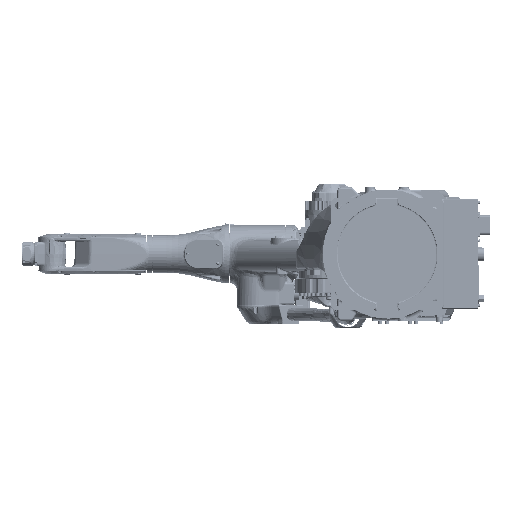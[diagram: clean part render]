
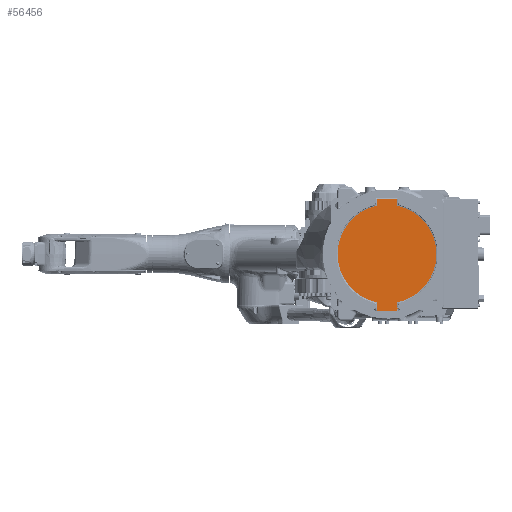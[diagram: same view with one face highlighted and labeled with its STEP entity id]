
A CAD part, front view. The second image highlights one B-rep face of the part: STEP entity #56456.
In plain terms, the highlighted planar face has unit normal (0, -1, 0).
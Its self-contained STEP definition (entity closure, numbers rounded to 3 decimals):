
#26765=CIRCLE('',#175379,13.);
#26766=CIRCLE('',#175381,132.);
#26767=CIRCLE('',#175382,132.);
#26768=CIRCLE('',#175383,13.);
#35820=PLANE('',#175384);
#38985=LINE('',#239433,#47715);
#39012=LINE('',#241609,#47742);
#39013=LINE('',#241611,#47743);
#39014=LINE('',#241613,#47744);
#39015=LINE('',#241617,#47745);
#39016=LINE('',#241618,#47746);
#39017=LINE('',#241620,#47747);
#39018=LINE('',#241621,#47748);
#39019=LINE('',#241623,#47749);
#39020=LINE('',#241627,#47750);
#47715=VECTOR('',#192901,1.);
#47742=VECTOR('',#193090,1.);
#47743=VECTOR('',#193091,1.);
#47744=VECTOR('',#193092,1.);
#47745=VECTOR('',#193095,1.);
#47746=VECTOR('',#193096,1.);
#47747=VECTOR('',#193097,1.);
#47748=VECTOR('',#193098,1.);
#47749=VECTOR('',#193099,1.);
#47750=VECTOR('',#193102,1.);
#56456=ADVANCED_FACE('',(#67170),#35820,.T.);
#67170=FACE_OUTER_BOUND('',#76061,.T.);
#76061=EDGE_LOOP('',(#91552,#91553,#91554,#91555,#91556,#91557,#91558,#91559,
#91560,#91561,#91562,#91563,#91564,#91565));
#91552=ORIENTED_EDGE('',*,*,#151897,.T.);
#91553=ORIENTED_EDGE('',*,*,#151898,.F.);
#91554=ORIENTED_EDGE('',*,*,#151899,.T.);
#91555=ORIENTED_EDGE('',*,*,#151900,.F.);
#91556=ORIENTED_EDGE('',*,*,#151901,.T.);
#91557=ORIENTED_EDGE('',*,*,#151902,.F.);
#91558=ORIENTED_EDGE('',*,*,#151896,.F.);
#91559=ORIENTED_EDGE('',*,*,#151903,.T.);
#91560=ORIENTED_EDGE('',*,*,#151904,.T.);
#91561=ORIENTED_EDGE('',*,*,#151794,.F.);
#91562=ORIENTED_EDGE('',*,*,#151905,.T.);
#91563=ORIENTED_EDGE('',*,*,#151906,.T.);
#91564=ORIENTED_EDGE('',*,*,#151907,.F.);
#91565=ORIENTED_EDGE('',*,*,#151908,.F.);
#137055=VERTEX_POINT('',#239432);
#137056=VERTEX_POINT('',#239434);
#137118=VERTEX_POINT('',#241544);
#137119=VERTEX_POINT('',#241603);
#137120=VERTEX_POINT('',#241607);
#137121=VERTEX_POINT('',#241608);
#137122=VERTEX_POINT('',#241610);
#137123=VERTEX_POINT('',#241612);
#137124=VERTEX_POINT('',#241614);
#137125=VERTEX_POINT('',#241616);
#137126=VERTEX_POINT('',#241619);
#137127=VERTEX_POINT('',#241622);
#137128=VERTEX_POINT('',#241624);
#137129=VERTEX_POINT('',#241626);
#151794=EDGE_CURVE('',#137055,#137056,#38985,.T.);
#151896=EDGE_CURVE('',#137118,#137119,#26765,.T.);
#151897=EDGE_CURVE('',#137120,#137121,#26766,.T.);
#151898=EDGE_CURVE('',#137122,#137121,#39012,.T.);
#151899=EDGE_CURVE('',#137122,#137123,#39013,.T.);
#151900=EDGE_CURVE('',#137124,#137123,#39014,.T.);
#151901=EDGE_CURVE('',#137124,#137125,#26767,.T.);
#151902=EDGE_CURVE('',#137119,#137125,#39015,.T.);
#151903=EDGE_CURVE('',#137118,#137126,#39016,.T.);
#151904=EDGE_CURVE('',#137126,#137056,#39017,.T.);
#151905=EDGE_CURVE('',#137055,#137127,#39018,.T.);
#151906=EDGE_CURVE('',#137127,#137128,#39019,.T.);
#151907=EDGE_CURVE('',#137129,#137128,#26768,.T.);
#151908=EDGE_CURVE('',#137120,#137129,#39020,.T.);
#175379=AXIS2_PLACEMENT_3D('',#241604,#193084,#193085);
#175381=AXIS2_PLACEMENT_3D('',#241606,#193088,#193089);
#175382=AXIS2_PLACEMENT_3D('',#241615,#193093,#193094);
#175383=AXIS2_PLACEMENT_3D('',#241625,#193100,#193101);
#175384=AXIS2_PLACEMENT_3D('',#241628,#193103,#193104);
#192901=DIRECTION('',(-1.,0.,0.));
#193084=DIRECTION('',(0.,-1.,0.));
#193085=DIRECTION('',(0.843,0.,-0.538));
#193088=DIRECTION('',(0.,-1.,0.));
#193089=DIRECTION('',(0.205,0.,-0.979));
#193090=DIRECTION('',(0.,0.,-1.));
#193091=DIRECTION('',(-1.,0.,0.));
#193092=DIRECTION('',(0.,0.,1.));
#193093=DIRECTION('',(0.,-1.,0.));
#193094=DIRECTION('',(-0.205,0.,0.979));
#193095=DIRECTION('',(0.,0.,1.));
#193096=DIRECTION('',(1.,0.,0.));
#193097=DIRECTION('',(0.,0.,-1.));
#193098=DIRECTION('',(0.,0.,1.));
#193099=DIRECTION('',(1.,0.,0.));
#193100=DIRECTION('',(0.,-1.,0.));
#193101=DIRECTION('',(-1.,0.,0.));
#193102=DIRECTION('',(0.,0.,-1.));
#193103=DIRECTION('',(0.,-1.,0.));
#193104=DIRECTION('',(-1.,0.,0.));
#239432=CARTESIAN_POINT('',(27.,3.,-153.));
#239433=CARTESIAN_POINT('',(27.,3.,-153.));
#239434=CARTESIAN_POINT('',(-27.,3.,-153.));
#241544=CARTESIAN_POINT('',(-29.046,3.,-147.));
#241603=CARTESIAN_POINT('',(-27.,3.,-140.));
#241604=CARTESIAN_POINT('',(-40.,3.,-140.));
#241606=CARTESIAN_POINT('',(0.,3.,0.));
#241607=CARTESIAN_POINT('',(27.,3.,-129.209));
#241608=CARTESIAN_POINT('',(27.,3.,129.209));
#241609=CARTESIAN_POINT('',(27.,3.,147.));
#241610=CARTESIAN_POINT('',(27.,3.,147.));
#241611=CARTESIAN_POINT('',(27.,3.,147.));
#241612=CARTESIAN_POINT('',(-27.,3.,147.));
#241613=CARTESIAN_POINT('',(-27.,3.,129.209));
#241614=CARTESIAN_POINT('',(-27.,3.,129.209));
#241615=CARTESIAN_POINT('',(0.,3.,0.));
#241616=CARTESIAN_POINT('',(-27.,3.,-129.209));
#241617=CARTESIAN_POINT('',(-27.,3.,-140.));
#241618=CARTESIAN_POINT('',(-29.046,3.,-147.));
#241619=CARTESIAN_POINT('',(-27.,3.,-147.));
#241620=CARTESIAN_POINT('',(-27.,3.,-147.));
#241621=CARTESIAN_POINT('',(27.,3.,-153.));
#241622=CARTESIAN_POINT('',(27.,3.,-147.));
#241623=CARTESIAN_POINT('',(27.,3.,-147.));
#241624=CARTESIAN_POINT('',(29.046,3.,-147.));
#241625=CARTESIAN_POINT('',(40.,3.,-140.));
#241626=CARTESIAN_POINT('',(27.,3.,-140.));
#241627=CARTESIAN_POINT('',(27.,3.,-129.209));
#241628=CARTESIAN_POINT('',(-150.,3.,-150.));
